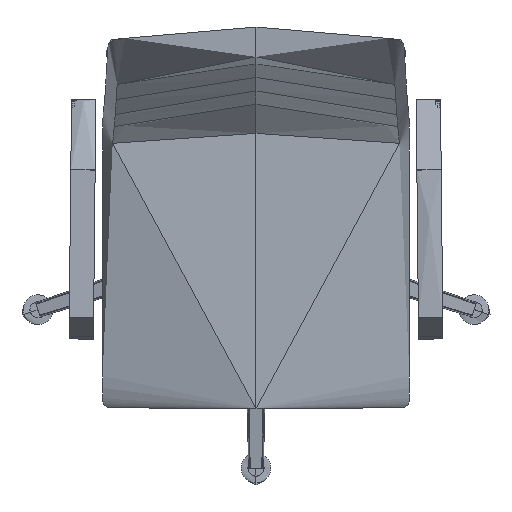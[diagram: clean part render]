
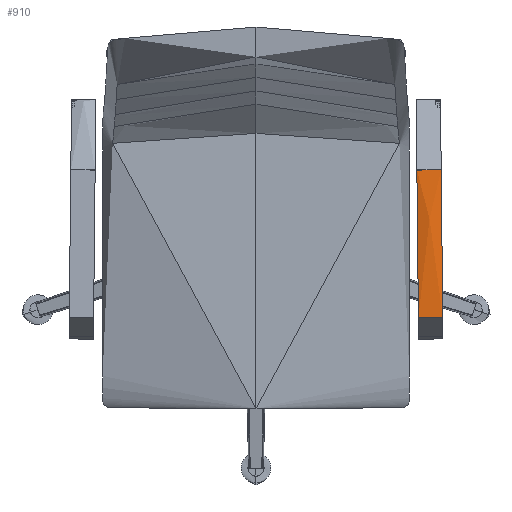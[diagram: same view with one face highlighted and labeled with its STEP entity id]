
A CAD part, top view. The second image highlights one B-rep face of the part: STEP entity #910.
In plain terms, the highlighted free-form (B-spline) face has degree [3, 3] with [4, 5] control points.
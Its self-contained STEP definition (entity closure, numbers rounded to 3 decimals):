
#910=ADVANCED_FACE('',(#1273),#5437,.T.);
#1273=FACE_OUTER_BOUND('',#1642,.T.);
#1642=EDGE_LOOP('',(#2991,#2992,#2993,#2994));
#2991=ORIENTED_EDGE('',*,*,#4047,.T.);
#2992=ORIENTED_EDGE('',*,*,#4048,.T.);
#2993=ORIENTED_EDGE('',*,*,#4049,.T.);
#2994=ORIENTED_EDGE('',*,*,#4050,.T.);
#4047=EDGE_CURVE('',#5168,#5169,#4636,.T.);
#4048=EDGE_CURVE('',#5169,#5170,#4637,.T.);
#4049=EDGE_CURVE('',#5170,#5171,#4638,.T.);
#4050=EDGE_CURVE('',#5171,#5168,#4639,.T.);
#4636=(
BOUNDED_CURVE()
B_SPLINE_CURVE(3,(#11928,#11929,#11930,#11931),.UNSPECIFIED.,.F.,.F.)
B_SPLINE_CURVE_WITH_KNOTS((4,4),(0.,217.847),.UNSPECIFIED.)
CURVE()
GEOMETRIC_REPRESENTATION_ITEM()
RATIONAL_B_SPLINE_CURVE((1.,1.,1.,1.))
REPRESENTATION_ITEM('')
);
#4637=(
BOUNDED_CURVE()
B_SPLINE_CURVE(3,(#11932,#11933,#11934,#11935,#11936),.UNSPECIFIED.,.F.,
 .F.)
B_SPLINE_CURVE_WITH_KNOTS((4,1,4),(-36.993,-18.496,
0.),.UNSPECIFIED.)
CURVE()
GEOMETRIC_REPRESENTATION_ITEM()
RATIONAL_B_SPLINE_CURVE((1.,1.,1.,1.,1.))
REPRESENTATION_ITEM('')
);
#4638=(
BOUNDED_CURVE()
B_SPLINE_CURVE(3,(#11937,#11938,#11939,#11940),.UNSPECIFIED.,.F.,.F.)
B_SPLINE_CURVE_WITH_KNOTS((4,4),(-217.847,0.),.UNSPECIFIED.)
CURVE()
GEOMETRIC_REPRESENTATION_ITEM()
RATIONAL_B_SPLINE_CURVE((1.,1.,1.,1.))
REPRESENTATION_ITEM('')
);
#4639=(
BOUNDED_CURVE()
B_SPLINE_CURVE(3,(#11941,#11942,#11943,#11944,#11945),.UNSPECIFIED.,.F.,
 .F.)
B_SPLINE_CURVE_WITH_KNOTS((4,1,4),(0.,18.496,36.993),
 .UNSPECIFIED.)
CURVE()
GEOMETRIC_REPRESENTATION_ITEM()
RATIONAL_B_SPLINE_CURVE((1.,1.,1.,1.,1.))
REPRESENTATION_ITEM('')
);
#5168=VERTEX_POINT('',#11787);
#5169=VERTEX_POINT('',#11788);
#5170=VERTEX_POINT('',#11789);
#5171=VERTEX_POINT('',#11790);
#5437=(
BOUNDED_SURFACE()
B_SPLINE_SURFACE(3,3,((#11413,#11414,#11415,#11416,#11417),(#11418,#11419,
#11420,#11421,#11422),(#11423,#11424,#11425,#11426,#11427),(#11428,#11429,
#11430,#11431,#11432)),.UNSPECIFIED.,.F.,.F.,.F.)
B_SPLINE_SURFACE_WITH_KNOTS((4,4),(4,1,4),(0.,217.847),(-36.993,
-18.496,0.),.UNSPECIFIED.)
GEOMETRIC_REPRESENTATION_ITEM()
RATIONAL_B_SPLINE_SURFACE(((1.,1.,1.,1.,1.),(1.,1.,1.,1.,
1.),(1.,1.,1.,1.,1.),(1.,1.,1.,1.,1.)))
REPRESENTATION_ITEM('')
SURFACE()
);
#11413=CARTESIAN_POINT('',(237.986,100.487,851.621));
#11414=CARTESIAN_POINT('',(244.421,100.551,854.077));
#11415=CARTESIAN_POINT('',(255.46,100.663,856.937));
#11416=CARTESIAN_POINT('',(268.599,100.804,854.54));
#11417=CARTESIAN_POINT('',(273.984,100.864,851.621));
#11418=CARTESIAN_POINT('',(238.746,27.912,853.941));
#11419=CARTESIAN_POINT('',(245.181,27.977,856.397));
#11420=CARTESIAN_POINT('',(256.22,28.089,859.257));
#11421=CARTESIAN_POINT('',(269.359,28.229,856.861));
#11422=CARTESIAN_POINT('',(274.744,28.289,853.941));
#11423=CARTESIAN_POINT('',(239.509,-44.946,856.27));
#11424=CARTESIAN_POINT('',(246.042,-44.711,858.665));
#11425=CARTESIAN_POINT('',(256.817,-44.396,861.561));
#11426=CARTESIAN_POINT('',(270.346,-44.413,859.268));
#11427=CARTESIAN_POINT('',(275.507,-44.569,856.27));
#11428=CARTESIAN_POINT('',(240.269,-117.521,858.591));
#11429=CARTESIAN_POINT('',(246.802,-117.286,860.986));
#11430=CARTESIAN_POINT('',(257.577,-116.97,863.881));
#11431=CARTESIAN_POINT('',(271.106,-116.988,861.588));
#11432=CARTESIAN_POINT('',(276.267,-117.144,858.591));
#11787=CARTESIAN_POINT('',(237.986,100.487,851.621));
#11788=CARTESIAN_POINT('',(240.269,-117.521,858.591));
#11789=CARTESIAN_POINT('',(276.267,-117.144,858.591));
#11790=CARTESIAN_POINT('',(273.984,100.864,851.621));
#11928=CARTESIAN_POINT('',(237.986,100.487,851.621));
#11929=CARTESIAN_POINT('',(238.746,27.912,853.941));
#11930=CARTESIAN_POINT('',(239.509,-44.946,856.27));
#11931=CARTESIAN_POINT('',(240.269,-117.521,858.591));
#11932=CARTESIAN_POINT('',(240.269,-117.521,858.591));
#11933=CARTESIAN_POINT('',(246.802,-117.286,860.986));
#11934=CARTESIAN_POINT('',(257.577,-116.97,863.881));
#11935=CARTESIAN_POINT('',(271.106,-116.988,861.588));
#11936=CARTESIAN_POINT('',(276.267,-117.144,858.591));
#11937=CARTESIAN_POINT('',(276.267,-117.144,858.591));
#11938=CARTESIAN_POINT('',(275.507,-44.569,856.27));
#11939=CARTESIAN_POINT('',(274.744,28.289,853.941));
#11940=CARTESIAN_POINT('',(273.984,100.864,851.621));
#11941=CARTESIAN_POINT('',(273.984,100.864,851.621));
#11942=CARTESIAN_POINT('',(268.599,100.804,854.54));
#11943=CARTESIAN_POINT('',(255.46,100.663,856.937));
#11944=CARTESIAN_POINT('',(244.421,100.551,854.077));
#11945=CARTESIAN_POINT('',(237.986,100.487,851.621));
